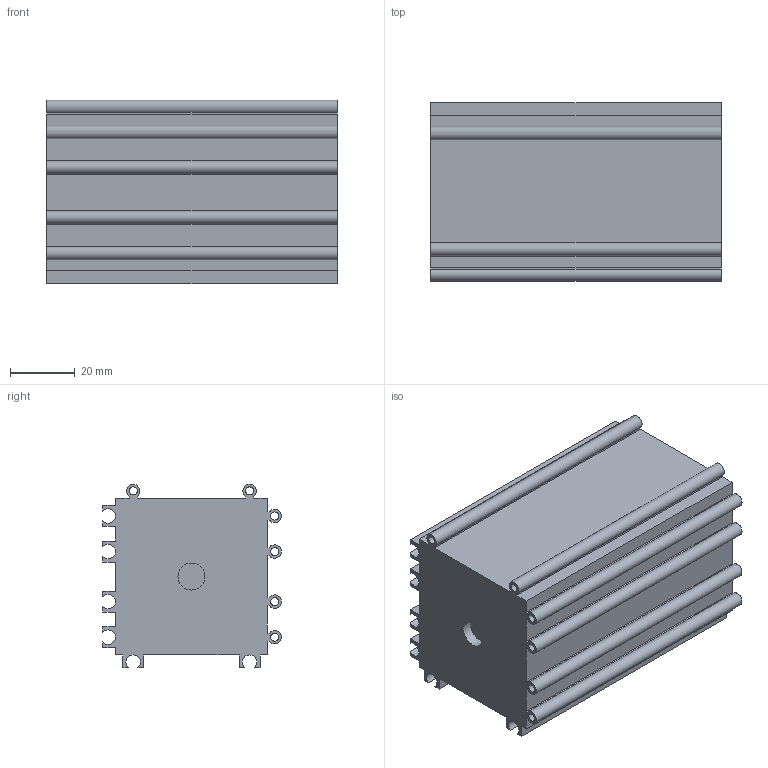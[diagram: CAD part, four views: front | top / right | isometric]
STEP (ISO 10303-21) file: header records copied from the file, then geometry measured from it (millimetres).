
FILE_DESCRIPTION(/* description */ (''),/* implementation_level */ '2;1');
FILE_NAME(/* name */ 'C:/Users/pet3r/Desktop/3D/MOJE/My Drawers/STEP/House 1x2.step',/* time_stamp */ '2018-03-31T21:33:10+02:00',/* author */ (''),/* organization */ (''),/* preprocessor_version */ 'ST-DEVELOPER v16.13',/* originating_system */ 'Autodesk Translation Framework v6.5.0.72',/* authorisation */ '');
FILE_SCHEMA (('AUTOMOTIVE_DESIGN { 1 0 10303 214 3 1 1 }'));
Length unit declared in the file: millimetre
Products named in the file (1): House 1x2
Bounding box: 90 x 55.27 x 56.77 mm (x, y, z)
Volume: 42236.5 mm3; surface area: 55247.8 mm2
Topology: 1 solids, 1 shells, 81 faces, 229 edges, 153 vertices
Faces by surface type: plane 61, cylinder 19, bspline 1
Full cylindrical faces by diameter (mm): 2.5 x6, 8.3 x1
Entity records: 2699 total; most frequent: CARTESIAN_POINT 490, ORIENTED_EDGE 458, DIRECTION 433, EDGE_CURVE 229, LINE 187, VECTOR 187, VERTEX_POINT 153, AXIS2_PLACEMENT_3D 123
